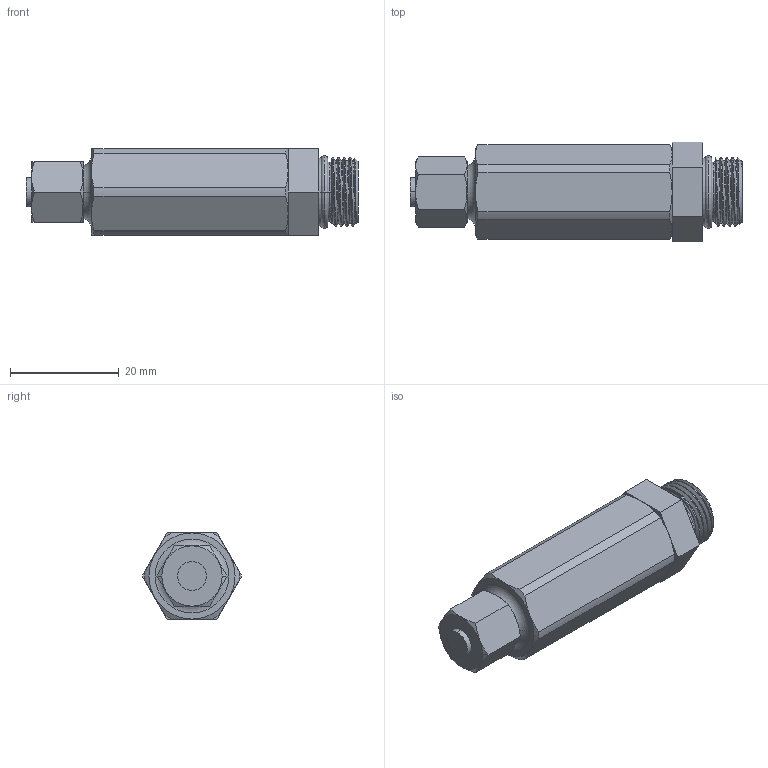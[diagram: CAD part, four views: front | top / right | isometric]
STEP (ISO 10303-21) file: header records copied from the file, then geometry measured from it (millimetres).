
FILE_DESCRIPTION((''),'2;1');
FILE_NAME('24Z682-EN-E_PRT','2019-12-31T18:54:04',('qusrh3'),(''),'CREO PARAMETRIC BY PTC INC, 2019030','CREO PARAMETRIC BY PTC INC, 2019030','');
FILE_SCHEMA(('CONFIG_CONTROL_DESIGN'));
Length unit declared in the file: inch
Products named in the file (1): 24Z682-EN-E_PRT
Bounding box: 61.19 x 18.33 x 15.88 mm (x, y, z)
Surface area: 4260.9 mm2 (no closed solid volume)
Topology: 0 solids, 8 shells, 77 faces, 186 edges, 116 vertices
Faces by surface type: plane 26, cylinder 19, cone 18, torus 8, bspline 6
Entity records: 3935 total; most frequent: CARTESIAN_POINT 2212, ORIENTED_EDGE 354, DIRECTION 329, EDGE_CURVE 186, AXIS2_PLACEMENT_3D 136, VERTEX_POINT 116, EDGE_LOOP 77, FACE_OUTER_BOUND 77
